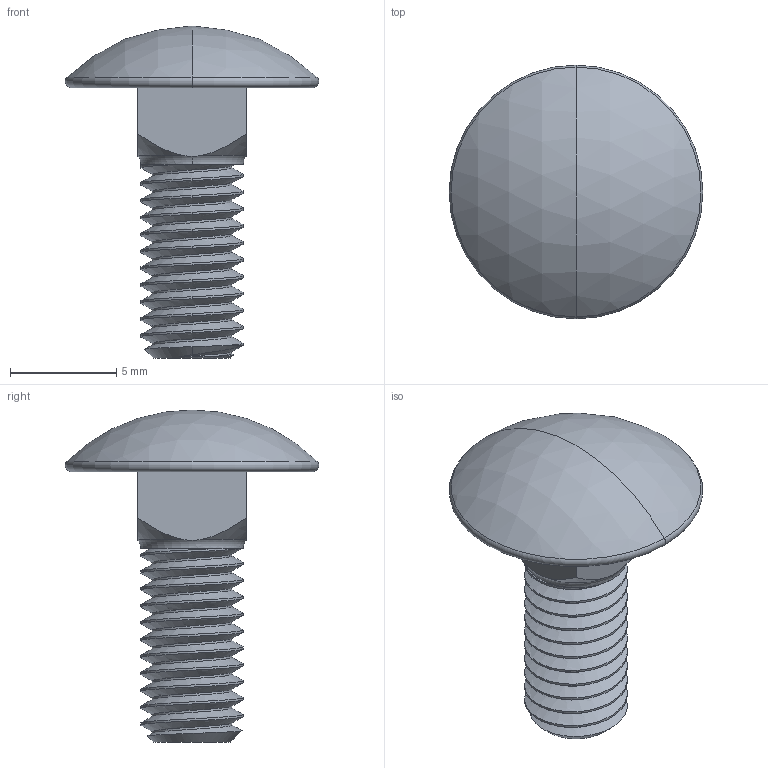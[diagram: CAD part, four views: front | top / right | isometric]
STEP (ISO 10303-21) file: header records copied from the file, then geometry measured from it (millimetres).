
FILE_DESCRIPTION((''),'2;1');
FILE_NAME('2120264','2020-05-26T13:23:41',('dking'),('Keithley Instruments'),'CREO PARAMETRIC BY PTC INC, 2019080','CREO PARAMETRIC BY PTC INC, 2019080','');
FILE_SCHEMA(('AUTOMOTIVE_DESIGN { 1 0 10303 214 1 1 1 1 }'));
Length unit declared in the file: inch
Products named in the file (1): 2120264
Bounding box: 11.91 x 11.91 x 15.6 mm (x, y, z)
Volume: 411.5 mm3; surface area: 531.1 mm2
Topology: 1 solids, 1 shells, 45 faces, 125 edges, 83 vertices
Faces by surface type: cylinder 22, cone 7, plane 7, torus 4, bspline 3, sphere 2
Entity records: 8541 total; most frequent: CARTESIAN_POINT 7023, ORIENTED_EDGE 250, COLOUR_RGB 190, DIRECTION 184, EDGE_CURVE 125, VERTEX_POINT 83, AXIS2_PLACEMENT_3D 74, B_SPLINE_CURVE_WITH_KNOTS 68
